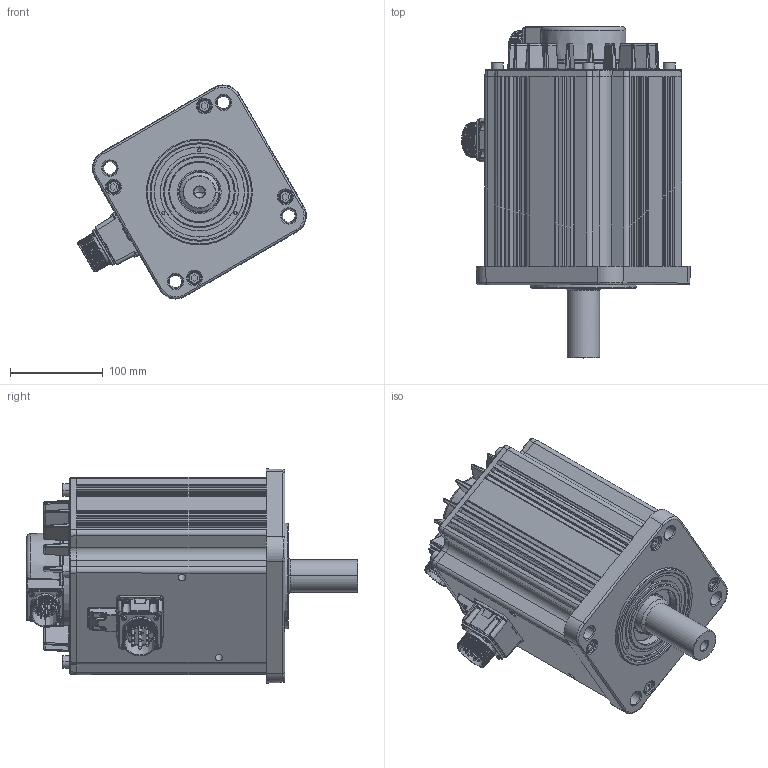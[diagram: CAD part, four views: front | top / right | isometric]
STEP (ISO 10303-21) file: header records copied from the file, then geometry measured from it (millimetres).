
FILE_DESCRIPTION((''),'2;1');
FILE_NAME('TLP-X200-450-DKMD4X_SW0001','2019-09-06T',('WATSON.CHANG'),(''),'CREO PARAMETRIC BY PTC INC, 2015080','CREO PARAMETRIC BY PTC INC, 2015080','');
FILE_SCHEMA(('CONFIG_CONTROL_DESIGN'));
Products named in the file (1): TLP-X200-450-DKMD4X_SW0001
Bounding box: 247.18 x 358.4 x 231.25 mm (x, y, z)
Volume: 6991918.2 mm3; surface area: 399350.3 mm2
Topology: 11 solids, 16 shells, 2732 faces, 6953 edges, 4332 vertices
Faces by surface type: plane 1161, cylinder 936, cone 235, bspline 149, torus 123, sphere 82, extrusion 46
Entity records: 125635 total; most frequent: CARTESIAN_POINT 46974, ORIENTED_EDGE 13630, DIRECTION 13447, EDGE_CURVE 6815, AXIS2_PLACEMENT_3D 4854, VERTEX_POINT 4332, VECTOR 3739, LINE 3693
